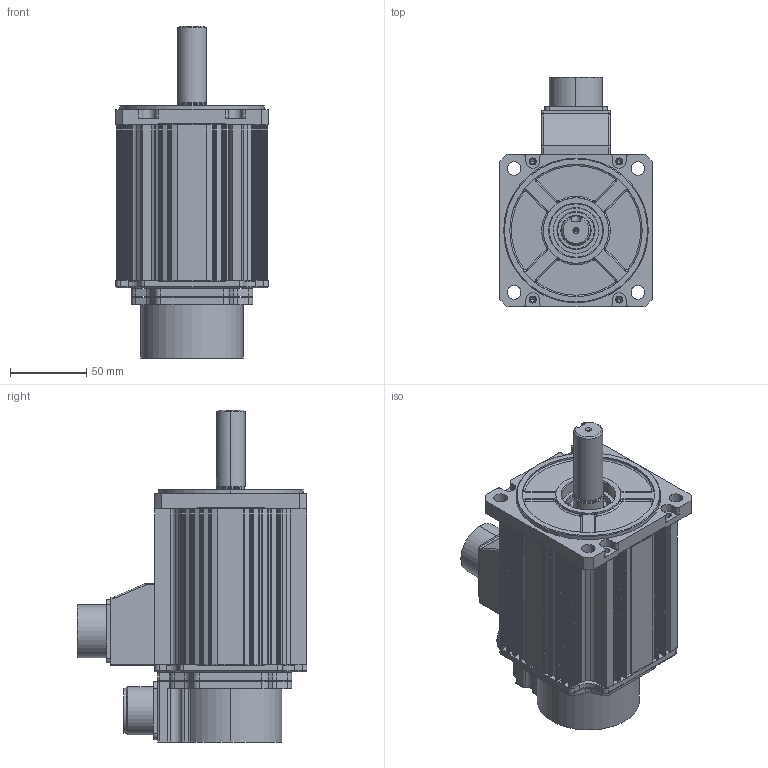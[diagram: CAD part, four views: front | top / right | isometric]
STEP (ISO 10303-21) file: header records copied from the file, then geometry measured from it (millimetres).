
FILE_DESCRIPTION (( 'STEP AP214' ), '1' );
FILE_NAME ('KANS-10D¡à1N2.STEP', '2026-09-12T01:01:23', ( '' ), ( '' ), 'SwSTEP 2.0', 'SolidWorks 2023', '' );
FILE_SCHEMA (( 'AUTOMOTIVE_DESIGN' ));
Length unit declared in the file: millimetre
Products named in the file (10): MS3102A 22_표준; □100-102mm; □100 BRACKET_BR; KANS-10D□1N2; Ø19-KEY6X42; 1006002202 ENCODER COVER; MS3102A 20-29P; □100 FLANGE; 10060024(ENCODER COVER ADAPTOR,□100,□120); 10050908 CONNECTOR BOX_MS22 or MS24
Assembly tree (9 placements, depth 2):
  KANS-10D□1N2
    □100-102mm
    □100 FLANGE
    □100 BRACKET_BR
    10060024(ENCODER COVER ADAPTOR,□100,□120)
    1006002202 ENCODER COVER
    MS3102A 20-29P
    Ø19-KEY6X42
    10050908 CONNECTOR BOX_MS22 or MS24
    MS3102A 22_표준
Bounding box: 100 x 150.85 x 218 mm (x, y, z)
Volume: 423596.5 mm3; surface area: 233145.1 mm2
Topology: 9 solids, 9 shells, 1757 faces, 4844 edges, 3130 vertices
Faces by surface type: cylinder 778, plane 774, torus 74, cone 64, bspline 35, sphere 32
Entity records: 57709 total; most frequent: CARTESIAN_POINT 11539, DIRECTION 9945, ORIENTED_EDGE 9572, EDGE_CURVE 4786, AXIS2_PLACEMENT_3D 3562, VERTEX_POINT 3122, VECTOR 2821, LINE 2821
